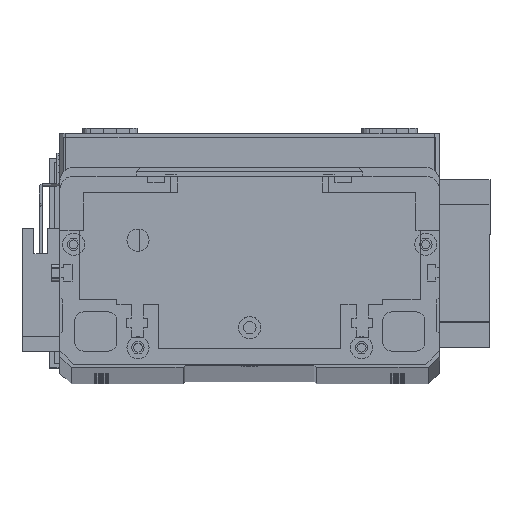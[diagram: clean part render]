
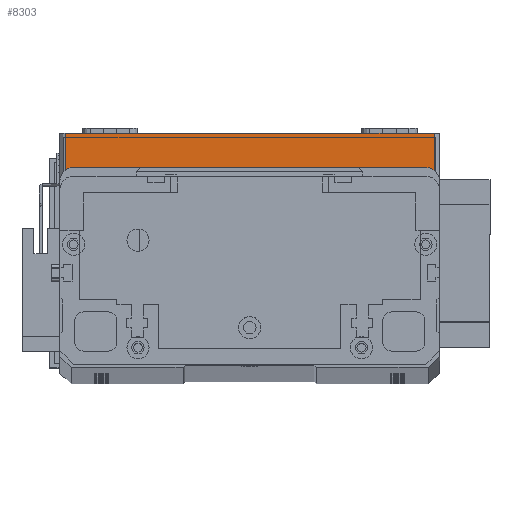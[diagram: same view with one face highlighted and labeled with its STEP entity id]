
A CAD part, top view. The second image highlights one B-rep face of the part: STEP entity #8303.
In plain terms, the highlighted planar face has unit normal (0, 0, 1) as drawn and (0, -1, 0) by its records, which use the part's own axes.
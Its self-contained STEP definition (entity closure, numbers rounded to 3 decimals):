
#1725 = ORIENTED_EDGE ( 'NONE', *, *, #8480, .T. ) ;
#2107 = VECTOR ( 'NONE', #8745, 1000. ) ;
#2131 = ORIENTED_EDGE ( 'NONE', *, *, #13466, .T. ) ;
#3906 = CARTESIAN_POINT ( 'NONE',  ( 134., 0., 0. ) ) ;
#8303 = ADVANCED_FACE ( 'NONE', ( #13816 ), #25344, .F. ) ;
#8453 = VECTOR ( 'NONE', #11434, 1000. ) ;
#8463 = DIRECTION ( 'NONE',  ( 0., 0., 1. ) ) ;
#8480 = EDGE_CURVE ( 'NONE', #14046, #17821, #27810, .T. ) ;
#8745 = DIRECTION ( 'NONE',  ( 0., 0., 1. ) ) ;
#9266 = VECTOR ( 'NONE', #11510, 1000. ) ;
#10027 = LINE ( 'NONE', #26007, #9266 ) ;
#10096 = EDGE_LOOP ( 'NONE', ( #14461, #1725, #24137, #2131 ) ) ;
#10191 = VECTOR ( 'NONE', #11842, 1000. ) ;
#11434 = DIRECTION ( 'NONE',  ( 0., 0., -1. ) ) ;
#11510 = DIRECTION ( 'NONE',  ( 1., 0., 0. ) ) ;
#11842 = DIRECTION ( 'NONE',  ( 1., 0., 0. ) ) ;
#12498 = VERTEX_POINT ( 'NONE', #3906 ) ;
#13466 = EDGE_CURVE ( 'NONE', #12498, #15244, #21480, .T. ) ;
#13816 = FACE_OUTER_BOUND ( 'NONE', #10096, .T. ) ;
#14046 = VERTEX_POINT ( 'NONE', #20523 ) ;
#14461 = ORIENTED_EDGE ( 'NONE', *, *, #27669, .F. ) ;
#15244 = VERTEX_POINT ( 'NONE', #25160 ) ;
#17821 = VERTEX_POINT ( 'NONE', #29340 ) ;
#19114 = AXIS2_PLACEMENT_3D ( 'NONE', #30212, #23026, #8463 ) ;
#20523 = CARTESIAN_POINT ( 'NONE',  ( 2., 0., 19.5 ) ) ;
#20856 = CARTESIAN_POINT ( 'NONE',  ( 134., 0., 19.5 ) ) ;
#21480 = LINE ( 'NONE', #20856, #2107 ) ;
#22786 = EDGE_CURVE ( 'NONE', #17821, #12498, #10027, .T. ) ;
#23026 = DIRECTION ( 'NONE',  ( 0., 1., 0. ) ) ;
#23918 = CARTESIAN_POINT ( 'NONE',  ( 0., 0., 19.5 ) ) ;
#24137 = ORIENTED_EDGE ( 'NONE', *, *, #22786, .T. ) ;
#25160 = CARTESIAN_POINT ( 'NONE',  ( 134., 0., 19.5 ) ) ;
#25344 = PLANE ( 'NONE',  #19114 ) ;
#26007 = CARTESIAN_POINT ( 'NONE',  ( 0., 0., 0. ) ) ;
#27669 = EDGE_CURVE ( 'NONE', #14046, #15244, #28779, .T. ) ;
#27810 = LINE ( 'NONE', #30804, #8453 ) ;
#28779 = LINE ( 'NONE', #23918, #10191 ) ;
#29340 = CARTESIAN_POINT ( 'NONE',  ( 2., 0., 0. ) ) ;
#30212 = CARTESIAN_POINT ( 'NONE',  ( 0., 0., 19.5 ) ) ;
#30804 = CARTESIAN_POINT ( 'NONE',  ( 2., 0., 19.5 ) ) ;
